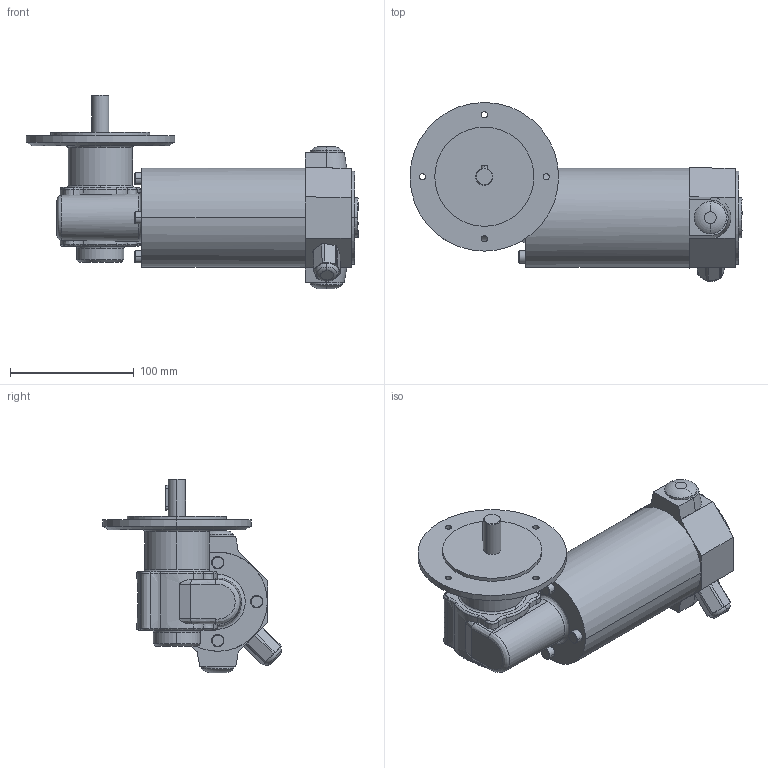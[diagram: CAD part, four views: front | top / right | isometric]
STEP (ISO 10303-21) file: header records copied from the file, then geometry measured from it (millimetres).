
FILE_DESCRIPTION(('OneSpaceDesigner STEP Export'),'2;1');
FILE_NAME('EPG13_GF130-10.stp','2008-07-10T 7:23:22',(''),(''),'OneSpace Designer STEP processor (Jan. 2003) for AP214(CD)(Solid Model)','OneSpace Designer 12.01D 09-Jul-2004 (C) CoCreate Software GmbH','');
FILE_SCHEMA(('AUTOMOTIVE_DESIGN_CC2 {1 2 10303 214 -1 1 5 1}'));
Length unit declared in the file: millimetre
Products named in the file (2): EPG13_GF130-10
Assembly tree (1 placements, depth 2):
  EPG13_GF130-10
    EPG13_GF130-10
Bounding box: 268 x 144.4 x 156.5 mm (x, y, z)
Volume: 1329527.7 mm3; surface area: 106906.7 mm2
Topology: 1 solids, 1 shells, 192 faces, 482 edges, 308 vertices
Faces by surface type: plane 52, cylinder 48, bspline 41, extrusion 25, torus 14, cone 12
Entity records: 16498 total; most frequent: CARTESIAN_POINT 12635, ORIENTED_EDGE 964, DIRECTION 512, EDGE_CURVE 482, VERTEX_POINT 308, EDGE_LOOP 216, FACE_OUTER_BOUND 192, ADVANCED_FACE 192
